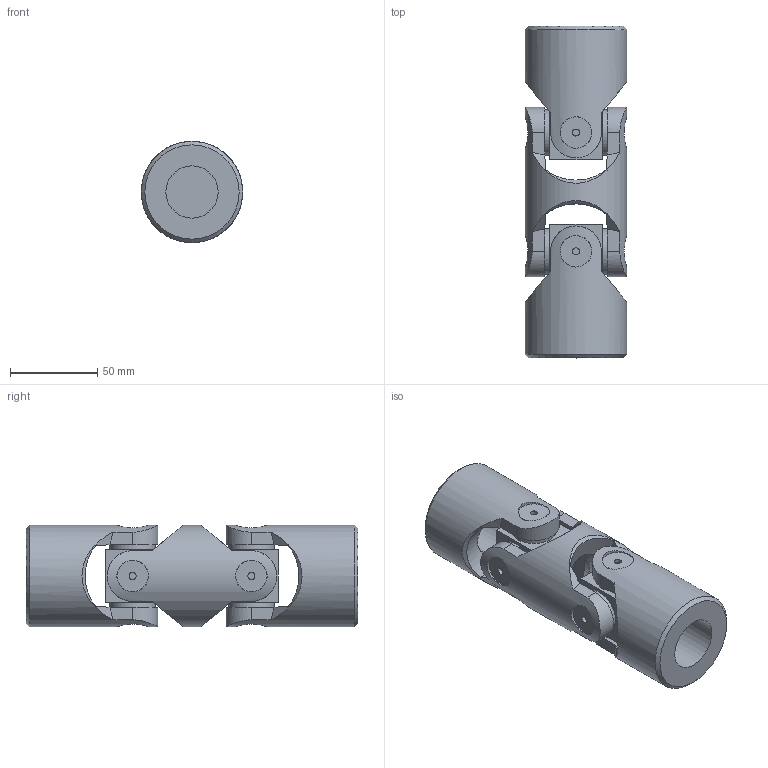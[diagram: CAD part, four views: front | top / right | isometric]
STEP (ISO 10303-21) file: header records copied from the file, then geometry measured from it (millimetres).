
FILE_DESCRIPTION(/* description */ (''),/* implementation_level */ '2;1');
FILE_NAME(/* name */ '\\SRV2016\Societa\Stefano\Disegni 3D\00Catalogo 3D\02Doppi GD-GBD\SG0D3000.stp',/* time_stamp */ '2021-11-23T15:50:44+01:00',/* author */ ('acquisti'),/* organization */ (''),/* preprocessor_version */ 'ST-DEVELOPER v15.6',/* originating_system */ 'Autodesk Inventor 2015',/* authorisation */ '');
FILE_SCHEMA (('AUTOMOTIVE_DESIGN { 1 0 10303 214 3 1 1 }'));
Length unit declared in the file: millimetre
Products named in the file (4): 6G MOD; 6G SFE; 6G MOS; Ø58_6GD-00_SG0D3000
Assembly tree (5 placements, depth 2):
  Ø58_6GD-00_SG0D3000
    6G MOD
    6G SFE  x2
    6G MOS  x2
Bounding box: 58 x 190 x 58 mm (x, y, z)
Volume: 320562.4 mm3; surface area: 71040.5 mm2
Topology: 5 solids, 5 shells, 137 faces, 329 edges, 222 vertices
Faces by surface type: plane 70, cylinder 41, cone 22, torus 4
Full cylindrical faces by diameter (mm): 4 x8, 18 x8, 26 x8, 30 x2, 32 x4, 58 x3
Entity records: 3328 total; most frequent: CARTESIAN_POINT 1238, ORIENTED_EDGE 398, DIRECTION 394, EDGE_CURVE 199, AXIS2_PLACEMENT_3D 173, VERTEX_POINT 153, EDGE_LOOP 140, FACE_OUTER_BOUND 94
